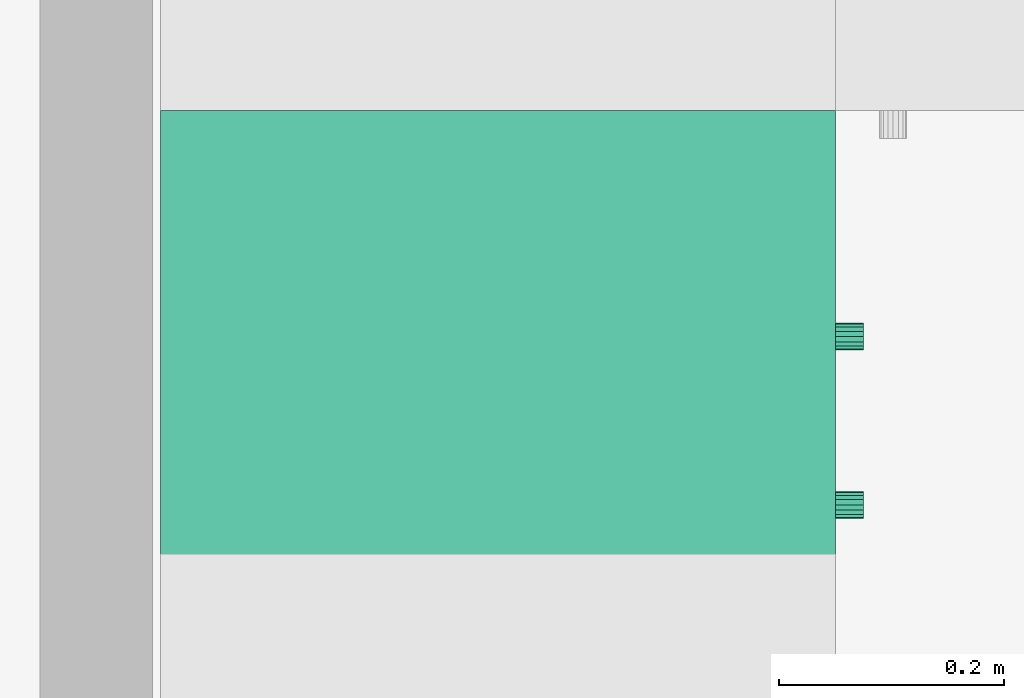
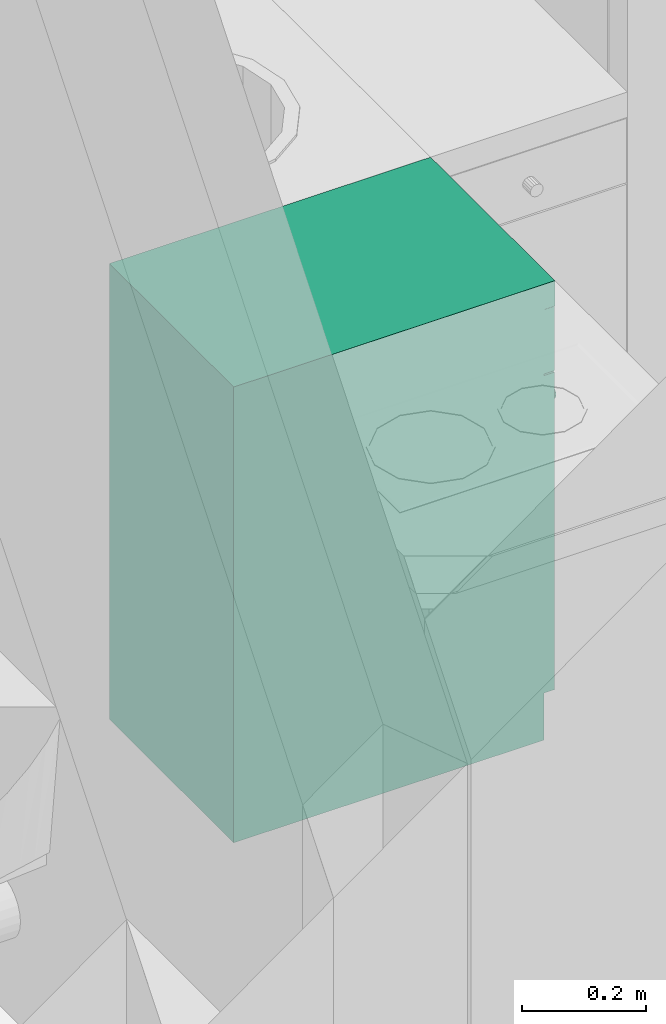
# One storey, part 56 of 172: 1 flow terminal.
"""IFC2X3 building model written with IfcOpenShell, lengths in millimetres."""

import ifcopenshell
import ifcopenshell.guid

model = None  # the IFC model being written
_history = None  # IfcOwnerHistory: only IFC2X3 demands one
_inside = {}  # id of a spatial element -> (the spatial element, [elements in it])
_under = {}  # id of a project, library or spatial element -> (it, [spatial elements below it])
_declared = {}  # id of a project -> (the project, [libraries it declares])
_typed = {}  # id of a type object -> (the type object, [elements of that type])
_made_of = {}  # id of a material, layer set ... -> (it, [elements and type objects made of it])


def new_model(schema):
    """Start an empty IFC model of exactly this schema.

    Asked for "IFC4X3", IfcOpenShell would pick the latest addendum, in which some entities
    have other attributes; the version numbers below select the first issue.
    IFC2X3 requires an IfcOwnerHistory on every rooted entity: one is made here for all.
    """
    global model, _history
    if schema == "IFC4X3":
        model = ifcopenshell.file(schema_version=(4, 3, 0, 0))
    else:
        model = ifcopenshell.file(schema=schema)
    _inside.clear()
    _under.clear()
    _declared.clear()
    _typed.clear()
    _made_of.clear()
    _history = None
    if model.schema == "IFC2X3":
        org = make("IfcOrganization", Name="unknown")
        user = make(
            "IfcPersonAndOrganization",
            ThePerson=make("IfcPerson", FamilyName="unknown"),
            TheOrganization=org,
        )
        app = make(
            "IfcApplication",
            ApplicationDeveloper=org,
            Version="unknown",
            ApplicationFullName="unknown",
            ApplicationIdentifier="unknown",
        )
        _history = make(
            "IfcOwnerHistory",
            OwningUser=user,
            OwningApplication=app,
            ChangeAction="ADDED",
            CreationDate=0,
        )
    return model


def make(cls, **values):
    """One entity of the class cls with the attributes given. An attribute that is None is left unset."""
    return model.create_entity(
        cls, **{name: value for name, value in values.items() if value is not None}
    )


def entity(cls, *values):
    """Any entity or typed value of the class cls, its attributes in the order of the schema. None: left unset."""
    e = model.create_entity(cls)
    for i, value in enumerate(values):
        if value is not None:
            e[i] = value
    return e


def rooted(cls, **values):
    """An entity with a GlobalId (a new one), such as an element, a storey or a relation."""
    return make(cls, GlobalId=ifcopenshell.guid.new(), OwnerHistory=_history, **values)


def si_unit(unit_type, name, prefix=None):
    """IfcSIUnit, for example si_unit("LENGTHUNIT", "METRE", prefix="MILLI")."""
    return make("IfcSIUnit", UnitType=unit_type, Prefix=prefix, Name=name)


def converted_unit(unit_type, name, factor, base, dimensions=None, offset=None):
    """IfcConversionBasedUnit, such as the inch: factor (a typed value) times the base unit."""
    return make(
        "IfcConversionBasedUnit"
        if offset is None
        else "IfcConversionBasedUnitWithOffset",
        ConversionOffset=offset,
        Dimensions=None
        if dimensions is None
        else entity("IfcDimensionalExponents", *dimensions),
        UnitType=unit_type,
        Name=name,
        ConversionFactor=make(
            "IfcMeasureWithUnit", ValueComponent=factor, UnitComponent=base
        ),
    )


def money_unit(currency):
    """IfcMonetaryUnit."""
    return make("IfcMonetaryUnit", Currency=currency)


def assignment(units):
    """IfcUnitAssignment: the units of a project."""
    return None if units is None else make("IfcUnitAssignment", Units=units)


def point(xyz):
    """IfcCartesianPoint."""
    return None if xyz is None else make("IfcCartesianPoint", Coordinates=xyz)


def direction(xyz):
    """IfcDirection."""
    return None if xyz is None else make("IfcDirection", DirectionRatios=xyz)


def frame(location, z_axis=None, x_axis=None):
    """IfcAxis2Placement3D, a coordinate frame: its origin and axes. An axis left out is left unset."""
    return make(
        "IfcAxis2Placement3D",
        Location=point(location),
        Axis=direction(z_axis),
        RefDirection=direction(x_axis),
    )


def origin_with_axes():
    """The frame at (0, 0, 0) with the z axis (0, 0, 1) and the x axis (1, 0, 0) written out."""
    return frame((0.0, 0.0, 0.0), z_axis=(0.0, 0.0, 1.0), x_axis=(1.0, 0.0, 0.0))


def place(relative_to, where):
    """IfcLocalPlacement: puts the frame where relative to a parent placement (None: the world)."""
    return make(
        "IfcLocalPlacement", PlacementRelTo=relative_to, RelativePlacement=where
    )


def context(
    kind, dimensions, precision=None, world=None, true_north=None, identifier=None
):
    """IfcGeometricRepresentationContext, for example the 3D "Model" context."""
    return make(
        "IfcGeometricRepresentationContext",
        ContextIdentifier=identifier,
        ContextType=kind,
        CoordinateSpaceDimension=dimensions,
        Precision=precision,
        WorldCoordinateSystem=world,
        TrueNorth=true_north,
    )


def subcontext(parent, identifier, kind, view, scale=None):
    """IfcGeometricRepresentationSubContext, for example "Body" below "Model"."""
    return make(
        "IfcGeometricRepresentationSubContext",
        ContextIdentifier=identifier,
        ContextType=kind,
        ParentContext=parent,
        TargetScale=scale,
        TargetView=view,
    )


def project(units=None, contexts=None):
    """IfcProject with its units and contexts."""
    return rooted(
        "IfcProject",
        Name="project",
        RepresentationContexts=contexts,
        UnitsInContext=assignment(units),
    )


def spatial(cls, under=None, at=None, **own):
    """A site, building, storey or space (cls), placed at a placement, below another one or the project."""
    s = rooted(cls, ObjectPlacement=at, **own)
    if under is not None:
        _under.setdefault(under.id(), (under, []))[1].append(s)
    return s


def faces_of(points, faces, orient=None, outer=None):
    """IfcFace entities. A face is a list of loops; a loop is a list of indices into points, from 0.

    orient and outer hold one flag for each loop. By default every Orientation is true, the
    first loop of a face is its IfcFaceOuterBound and the others are IfcFaceBound.
    """
    made = []
    for i, loops in enumerate(faces):
        bounds = []
        for j, loop in enumerate(loops):
            is_outer = j == 0 if outer is None else outer[i][j]
            bounds.append(
                make(
                    "IfcFaceOuterBound" if is_outer else "IfcFaceBound",
                    Bound=make("IfcPolyLoop", Polygon=[points[k] for k in loop]),
                    Orientation=True if orient is None else orient[i][j],
                )
            )
        made.append(make("IfcFace", Bounds=bounds))
    return made


def faceted_brep(points, faces, orient=None, outer=None, voids=None):
    """IfcFacetedBrep: a solid bounded by flat faces; with voids (closed shells), ...WithVoids."""
    shared = [point(p) for p in points]
    hull = make("IfcClosedShell", CfsFaces=faces_of(shared, faces, orient, outer))
    if voids is None:
        return make("IfcFacetedBrep", Outer=hull)
    return make(
        "IfcFacetedBrepWithVoids",
        Outer=hull,
        Voids=[
            make(cls, CfsFaces=faces_of(shared, fs, o, b)) for cls, fs, o, b in voids
        ],
    )


def shape(context_of_items, identifier, shape_type, items):
    """IfcShapeRepresentation: the items that make up one representation, for example the "Body"."""
    return make(
        "IfcShapeRepresentation",
        ContextOfItems=context_of_items,
        RepresentationIdentifier=identifier,
        RepresentationType=shape_type,
        Items=items,
    )


def source(mapping_origin, context_of_items, identifier, shape_type, items):
    """IfcRepresentationMap: a shape defined once, which mapped items show again and again."""
    return make(
        "IfcRepresentationMap",
        MappingOrigin=mapping_origin,
        MappedRepresentation=shape(context_of_items, identifier, shape_type, items),
    )


def transform(
    local_origin,
    x_axis=None,
    y_axis=None,
    z_axis=None,
    scale=None,
    scale2=None,
    scale3=None,
    uniform=True,
):
    """IfcCartesianTransformationOperator3D, or its non-uniform kind. x_axis, y_axis, z_axis: its Axis1, 2, 3."""
    if uniform:
        return make(
            "IfcCartesianTransformationOperator3D",
            Axis1=direction(x_axis),
            Axis2=direction(y_axis),
            LocalOrigin=point(local_origin),
            Scale=scale,
            Axis3=direction(z_axis),
        )
    return make(
        "IfcCartesianTransformationOperator3DnonUniform",
        Axis1=direction(x_axis),
        Axis2=direction(y_axis),
        LocalOrigin=point(local_origin),
        Scale=scale,
        Axis3=direction(z_axis),
        Scale2=scale2,
        Scale3=scale3,
    )


def mapped(mapping_source, mapping_target):
    """IfcMappedItem: shows the shape of a source again, moved by a transform."""
    return make(
        "IfcMappedItem", MappingSource=mapping_source, MappingTarget=mapping_target
    )


def material(Name=None, Category=None):
    """IfcMaterial."""
    return make("IfcMaterial", Name=Name, Category=Category)


def material_list(materials):
    """IfcMaterialList."""
    return make("IfcMaterialList", Materials=materials)


def made_of(thing, what):
    """Note that an element or type object is made of a material, layer set ...; save() writes the relation."""
    if what is not None:
        _made_of.setdefault(what.id(), (what, []))[1].append(thing)
    return thing


def type_object(cls, material=None, **own):
    """A type object (cls), such as IfcWallType, which elements share."""
    return made_of(rooted(cls, **own), material)


def element(
    cls,
    number,
    at=None,
    inside=None,
    cuts=None,
    type_object=None,
    material=None,
    context=None,
    identifier="Body",
    shape_type=None,
    held_by="IfcProductDefinitionShape",
    body=None,
    shapes=None,
    **own,
):
    """One element of the class cls, such as IfcWall. Its Tag is "e" and its number.

    at: its placement. inside: the storey or other place that contains it. cuts: it is an
    opening in that element (IfcRelVoidsElement). A single representation is given by context,
    identifier, shape_type and body (its items); several are given by shapes. held_by: the class
    of the entity that holds the representations. save() writes the other relations.
    """
    e = rooted(cls, Tag="e%d" % number, ObjectPlacement=at, **own)
    if body is not None:
        shapes = [shape(context, identifier, shape_type, body)]
    if shapes is not None:
        e.Representation = make(held_by, Representations=shapes)
    if inside is not None:
        _inside.setdefault(inside.id(), (inside, []))[1].append(e)
    if cuts is not None:
        rooted(
            "IfcRelVoidsElement", RelatingBuildingElement=cuts, RelatedOpeningElement=e
        )
    if type_object is not None:
        _typed.setdefault(type_object.id(), (type_object, []))[1].append(e)
    return made_of(e, material)


def aggregate(whole, parts):
    """IfcRelAggregates: a whole, such as a stair, and the parts it consists of."""
    return rooted("IfcRelAggregates", RelatingObject=whole, RelatedObjects=parts)


def save(model, path):
    """Write the relations noted so far, then the file.

    IfcRelAggregates (storeys below a building ...), IfcRelContainedInSpatialStructure (elements
    in a storey), IfcRelDefinesByType, IfcRelAssociatesMaterial and IfcRelDeclares: one each for
    every whole, place, type object, material and project.
    """
    for whole, parts in _under.values():
        aggregate(whole, parts)
    for where, things in _inside.values():
        rooted(
            "IfcRelContainedInSpatialStructure",
            RelatedElements=things,
            RelatingStructure=where,
        )
    for kind, things in _typed.values():
        rooted("IfcRelDefinesByType", RelatedObjects=things, RelatingType=kind)
    for what, things in _made_of.values():
        rooted("IfcRelAssociatesMaterial", RelatedObjects=things, RelatingMaterial=what)
    for by, libraries in _declared.values():
        rooted("IfcRelDeclares", RelatingContext=by, RelatedDefinitions=libraries)
    model.write(path)


model = new_model("IFC2X3")

# Units and contexts
model_context = context("Model", 3, precision=1e-05, world=origin_with_axes(), true_north=direction((0.0, 1.0)))
body_context = subcontext(model_context, "Body", "Model", "MODEL_VIEW")
ifc_project = project(units=[si_unit("LENGTHUNIT", "METRE", prefix="MILLI"), si_unit("AREAUNIT", "SQUARE_METRE"), si_unit("VOLUMEUNIT", "CUBIC_METRE"), converted_unit("PLANEANGLEUNIT", "DEGREE", entity("IfcPlaneAngleMeasure", 0.0174532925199), si_unit("PLANEANGLEUNIT", "RADIAN"), dimensions=[0, 0, 0, 0, 0, 0, 0]), si_unit("SOLIDANGLEUNIT", "STERADIAN"), money_unit("USD"), converted_unit("TIMEUNIT", "Year", entity("IfcTimeMeasure", 31556926.0), si_unit("TIMEUNIT", "SECOND"), dimensions=[0, 0, 0, 0, 0, 0, 0]), si_unit("MASSUNIT", "GRAM"), si_unit("THERMODYNAMICTEMPERATUREUNIT", "DEGREE_CELSIUS"), si_unit("LUMINOUSINTENSITYUNIT", "LUMEN")], contexts=[model_context])

# Site, building, storey
site_placement = place(None, origin_with_axes())
site = spatial("IfcSite", under=ifc_project, at=site_placement, Name="Site", CompositionType="ELEMENT")
building_placement = place(site_placement, origin_with_axes())
building = spatial("IfcBuilding", under=site, at=building_placement, Name="Building", CompositionType="ELEMENT")
storey_placement = place(building_placement, frame((0.0, 0.0, 3200.0), z_axis=(0.0, 0.0, 1.0), x_axis=(1.0, 0.0, 0.0)))
storey = spatial("IfcBuildingStorey", under=building, at=storey_placement, Name="3KORRUS", CompositionType="ELEMENT", Elevation=3200.0)

# Flow terminal
ifc_material = material(Name="Background")
ifc_material_list = material_list([ifc_material])
sanitary_terminal_type = type_object("IfcSanitaryTerminalType", Name="Cabinet Base Single Door 19", PredefinedType="SINK")
shared_shape = source(origin_with_axes(), body_context, "Body", "Brep", [
    faceted_brep([(-20.0, 20.0, 710.0), (-20.0, 20.0, 730.0), (-382.248, 20.0, 730.0), (-382.248, 20.0, 710.0), (-20.0, 580.0, 710.0), (-20.0, 580.0, 730.0), (-382.248, 580.0, 730.0), (-382.248, 580.0, 710.0)], [[[0, 1, 2, 3]], [[4, 5, 1, 0]], [[1, 5, 6, 2]], [[3, 2, 6, 7]], [[0, 3, 7, 4]], [[7, 6, 5, 4]]]),
    faceted_brep([(0.0, 20.0, 0.0), (0.0, 20.0, 90.0), (-402.248, 20.0, 90.0), (-402.248, 20.0, 0.0), (0.0, 600.0, 0.0), (0.0, 600.0, 90.0), (-402.248, 600.0, 90.0), (-402.248, 600.0, 0.0)], [[[0, 1, 2, 3]], [[4, 5, 1, 0]], [[1, 5, 6, 2]], [[3, 2, 6, 7]], [[0, 3, 7, 4]], [[7, 6, 5, 4]]]),
    faceted_brep([(0.0, 20.0, 830.0), (0.0, 20.0, 850.0), (-20.0, 20.0, 850.0), (-20.0, 20.0, 830.0), (0.0, 600.0, 830.0), (0.0, 600.0, 850.0), (-20.0, 600.0, 850.0), (-382.248, 600.0, 850.0), (-402.248, 600.0, 850.0), (-402.248, 20.0, 850.0), (-382.248, 20.0, 850.0), (-382.248, 20.0, 830.0), (-402.248, 20.0, 830.0), (-402.248, 600.0, 830.0), (-382.248, 600.0, 830.0), (-20.0, 600.0, 830.0)], [[[0, 1, 2, 3]], [[4, 5, 1, 0]], [[1, 5, 6, 7, 8, 9, 10, 2]], [[3, 2, 10, 11]], [[0, 3, 11, 12, 13, 14, 15, 4]], [[15, 6, 5, 4]], [[14, 7, 6, 15]], [[13, 8, 7, 14]], [[12, 9, 8, 13]], [[11, 10, 9, 12]]]),
    faceted_brep([(0.0, 20.0, 90.0), (0.0, 20.0, 110.0), (-20.0, 20.0, 110.0), (-20.0, 20.0, 90.0), (0.0, 600.0, 90.0), (0.0, 600.0, 110.0), (-20.0, 600.0, 110.0), (-382.248, 600.0, 110.0), (-402.248, 600.0, 110.0), (-402.248, 20.0, 110.0), (-382.248, 20.0, 110.0), (-382.248, 20.0, 90.0), (-402.248, 20.0, 90.0), (-402.248, 600.0, 90.0), (-382.248, 600.0, 90.0), (-20.0, 600.0, 90.0)], [[[0, 1, 2, 3]], [[4, 5, 1, 0]], [[1, 5, 6, 7, 8, 9, 10, 2]], [[3, 2, 10, 11]], [[0, 3, 11, 12, 13, 14, 15, 4]], [[15, 6, 5, 4]], [[14, 7, 6, 15]], [[13, 8, 7, 14]], [[12, 9, 8, 13]], [[11, 10, 9, 12]]]),
    faceted_brep([(0.0, 20.0, 110.0), (0.0, 20.0, 830.0), (-20.0, 20.0, 830.0), (-20.0, 20.0, 110.0), (0.0, 600.0, 110.0), (0.0, 600.0, 830.0), (-402.248, 600.0, 830.0), (-402.248, 20.0, 830.0), (-382.248, 20.0, 830.0), (-382.248, 580.0, 830.0), (-20.0, 580.0, 830.0), (-20.0, 580.0, 110.0), (-382.248, 580.0, 110.0), (-382.248, 20.0, 110.0), (-402.248, 20.0, 110.0), (-402.248, 600.0, 110.0)], [[[0, 1, 2, 3]], [[4, 5, 1, 0]], [[1, 5, 6, 7, 8, 9, 10, 2]], [[3, 2, 10, 11]], [[0, 3, 11, 12, 13, 14, 15, 4]], [[15, 6, 5, 4]], [[14, 7, 6, 15]], [[13, 8, 7, 14]], [[12, 9, 8, 13]], [[11, 10, 9, 12]]]),
    faceted_brep([(-382.248, 20.0, 385.0), (-382.248, 20.0, 405.0), (-382.248, 580.0, 405.0), (-382.248, 580.0, 385.0), (-20.0, 20.0, 385.0), (-20.0, 20.0, 405.0), (-20.0, 580.0, 405.0), (-20.0, 580.0, 385.0)], [[[0, 1, 2, 3]], [[4, 5, 1, 0]], [[1, 5, 6, 2]], [[3, 2, 6, 7]], [[0, 3, 7, 4]], [[7, 6, 5, 4]]]),
    faceted_brep([(0.0, 0.0, 850.0), (0.0, 0.0, 900.0), (-402.248, 0.0, 900.0), (-402.248, 0.0, 850.0), (0.0, 600.0, 850.0), (0.0, 600.0, 900.0), (-402.248, 600.0, 900.0), (-402.248, 600.0, 850.0)], [[[0, 1, 2, 3]], [[4, 5, 1, 0]], [[1, 5, 6, 2]], [[3, 2, 6, 7]], [[0, 3, 7, 4]], [[7, 6, 5, 4]]]),
    faceted_brep([(-1.5, 20.0, 721.5), (-1.5, 0.0, 721.5), (-400.748, 0.0, 721.5), (-400.748, 20.0, 721.5), (-1.5, 20.0, 848.5), (-1.5, 0.0, 848.5), (-400.748, 0.0, 848.5), (-400.748, 20.0, 848.5)], [[[0, 1, 2, 3]], [[4, 5, 1, 0]], [[1, 5, 6, 2]], [[3, 2, 6, 7]], [[0, 3, 7, 4]], [[7, 6, 5, 4]]]),
    faceted_brep([(-196.532, 0.0, 773.913), (-201.124, 0.0, 773.0), (-205.716, 0.0, 773.913), (-209.609, 0.0, 776.515), (-212.211, 0.0, 780.408), (-213.124, 0.0, 785.0), (-212.211, 0.0, 789.592), (-209.609, 0.0, 793.485), (-205.716, 0.0, 796.087), (-201.124, 0.0, 797.0), (-196.532, 0.0, 796.087), (-192.639, 0.0, 793.485), (-190.038, 0.0, 789.592), (-189.124, 0.0, 785.0), (-190.038, 0.0, 780.408), (-192.639, 0.0, 776.515), (-196.532, -25.0, 773.913), (-201.124, -25.0, 773.0), (-205.716, -25.0, 773.913), (-209.609, -25.0, 776.515), (-212.211, -25.0, 780.408), (-213.124, -25.0, 785.0), (-212.211, -25.0, 789.592), (-209.609, -25.0, 793.485), (-205.716, -25.0, 796.087), (-201.124, -25.0, 797.0), (-196.532, -25.0, 796.087), (-192.639, -25.0, 793.485), (-190.038, -25.0, 789.592), (-189.124, -25.0, 785.0), (-190.038, -25.0, 780.408), (-192.639, -25.0, 776.515)], [[[0, 1, 2, 3, 4, 5, 6, 7, 8, 9, 10, 11, 12, 13, 14, 15]], [[0, 16, 17, 1]], [[1, 17, 18, 2]], [[2, 18, 19, 3]], [[3, 19, 20, 4]], [[4, 20, 21, 5]], [[5, 21, 22, 6]], [[6, 22, 23, 7]], [[7, 23, 24, 8]], [[8, 24, 25, 9]], [[9, 25, 26, 10]], [[10, 26, 27, 11]], [[11, 27, 28, 12]], [[12, 28, 29, 13]], [[13, 29, 30, 14]], [[14, 30, 31, 15]], [[15, 31, 16, 0]], [[16, 31, 30, 29, 28, 27, 26, 25, 24, 23, 22, 21, 20, 19, 18, 17]]]),
    faceted_brep([(-1.5, 20.0, 91.5), (-1.5, 0.0, 91.5), (-400.748, 0.0, 91.5), (-400.748, 20.0, 91.5), (-1.5, 20.0, 718.5), (-1.5, 0.0, 718.5), (-400.748, 0.0, 718.5), (-400.748, 20.0, 718.5)], [[[0, 1, 2, 3]], [[4, 5, 1, 0]], [[1, 5, 6, 2]], [[3, 2, 6, 7]], [[0, 3, 7, 4]], [[7, 6, 5, 4]]]),
    faceted_brep([(-361.835, 0.0, 636.908), (-362.748, 0.0, 641.5), (-361.835, 0.0, 646.092), (-359.234, 0.0, 649.985), (-355.341, 0.0, 652.587), (-350.748, 0.0, 653.5), (-346.156, 0.0, 652.587), (-342.263, 0.0, 649.985), (-339.662, 0.0, 646.092), (-338.748, 0.0, 641.5), (-339.662, 0.0, 636.908), (-342.263, 0.0, 633.015), (-346.156, 0.0, 630.413), (-350.748, 0.0, 629.5), (-355.341, 0.0, 630.413), (-359.234, 0.0, 633.015), (-361.835, -25.0, 636.908), (-362.748, -25.0, 641.5), (-361.835, -25.0, 646.092), (-359.234, -25.0, 649.985), (-355.341, -25.0, 652.587), (-350.748, -25.0, 653.5), (-346.156, -25.0, 652.587), (-342.263, -25.0, 649.985), (-339.662, -25.0, 646.092), (-338.748, -25.0, 641.5), (-339.662, -25.0, 636.908), (-342.263, -25.0, 633.015), (-346.156, -25.0, 630.413), (-350.748, -25.0, 629.5), (-355.341, -25.0, 630.413), (-359.234, -25.0, 633.015)], [[[0, 1, 2, 3, 4, 5, 6, 7, 8, 9, 10, 11, 12, 13, 14, 15]], [[0, 16, 17, 1]], [[1, 17, 18, 2]], [[2, 18, 19, 3]], [[3, 19, 20, 4]], [[4, 20, 21, 5]], [[5, 21, 22, 6]], [[6, 22, 23, 7]], [[7, 23, 24, 8]], [[8, 24, 25, 9]], [[9, 25, 26, 10]], [[10, 26, 27, 11]], [[11, 27, 28, 12]], [[12, 28, 29, 13]], [[13, 29, 30, 14]], [[14, 30, 31, 15]], [[15, 31, 16, 0]], [[16, 31, 30, 29, 28, 27, 26, 25, 24, 23, 22, 21, 20, 19, 18, 17]]]),
])
flow_terminal_placement = place(storey_placement, frame((866.697734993, -9966.37850445, 0.0), z_axis=(0.0, 0.0, 1.0), x_axis=(0.0, 1.0, 0.0)))
element("IfcFlowTerminal", 1, at=flow_terminal_placement, inside=storey, type_object=sanitary_terminal_type, material=ifc_material_list, Name="FU - 007", context=body_context, shape_type="MappedRepresentation", body=[
    mapped(shared_shape, transform((0.0, 0.0, 0.0))),
])

save(model, "model.ifc")
